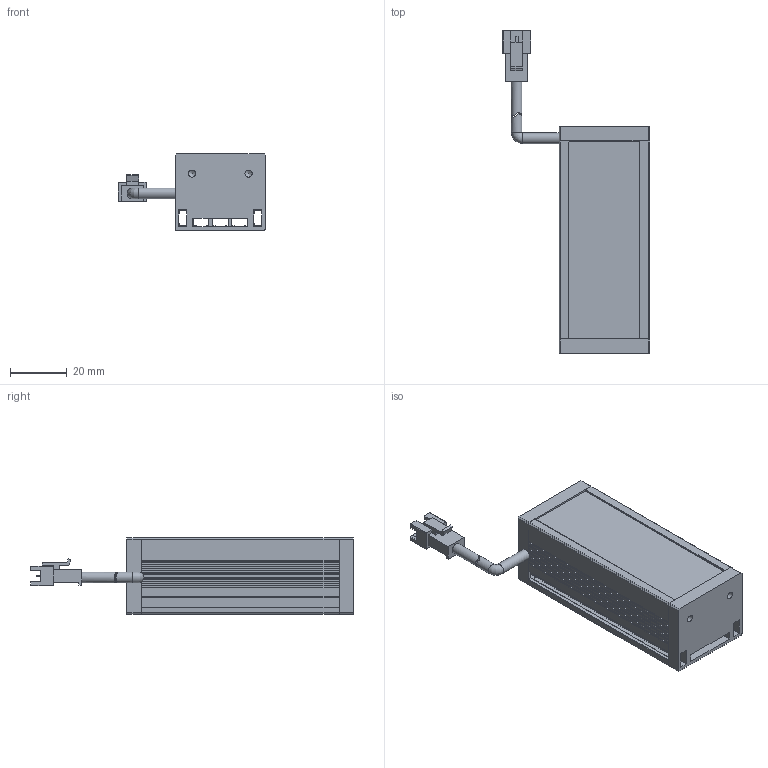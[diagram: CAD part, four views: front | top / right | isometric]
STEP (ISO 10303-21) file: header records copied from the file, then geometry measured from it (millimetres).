
FILE_DESCRIPTION(/* description */ (''),/* implementation_level */ '2;1');
FILE_NAME(/* name */ '',/* time_stamp */ '2024-02-21T10:41:58+08:00',/* author */ (''),/* organization */ (''),/* preprocessor_version */ 'ST-DEVELOPER v20',/* originating_system */ 'Autodesk Translation Framework v12.20.1.177',/* authorisation */ '');
FILE_SCHEMA (('AUTOMOTIVE_DESIGN { 1 0 10303 214 3 1 1 }'));
Length unit declared in the file: millimetre
Products named in the file (6): L30; 3拼母头 v2; 主体; 漫射板; 挡头 (1); 挡头
Assembly tree (5 placements, depth 2):
  L30
    3拼母头 v2
    主体
    漫射板
    挡头 (1)
    挡头
Bounding box: 52 x 114 x 27 mm (x, y, z)
Volume: 31569.8 mm3; surface area: 30661.4 mm2
Topology: 6 solids, 6 shells, 416 faces, 1179 edges, 784 vertices
Faces by surface type: plane 300, cylinder 111, cone 4, torus 1
Full cylindrical faces by diameter (mm): 2.529 x4, 3.8 x3
Entity records: 13619 total; most frequent: CARTESIAN_POINT 2391, ORIENTED_EDGE 2350, DIRECTION 2265, EDGE_CURVE 1175, LINE 937, VECTOR 937, VERTEX_POINT 784, AXIS2_PLACEMENT_3D 664
